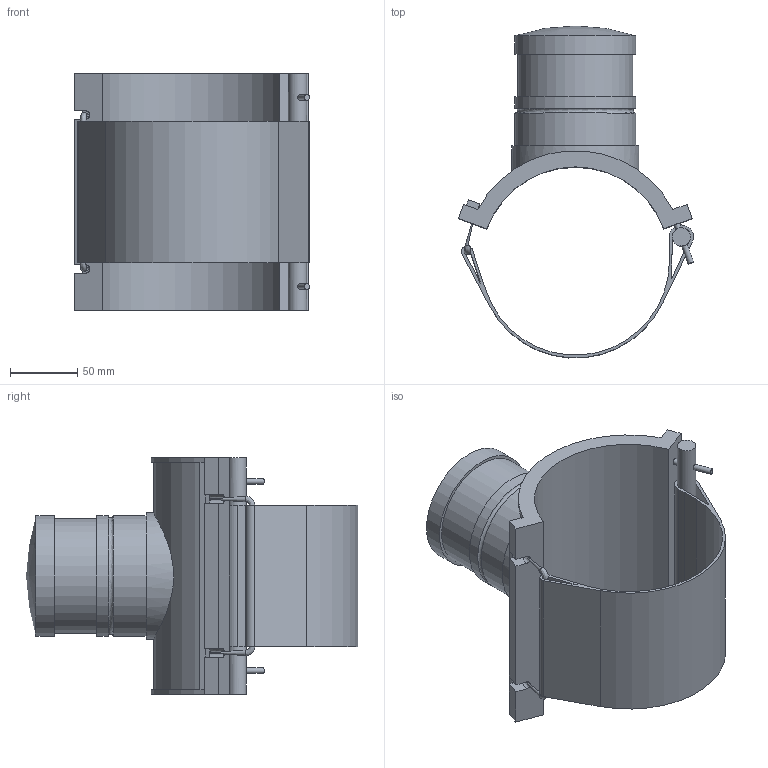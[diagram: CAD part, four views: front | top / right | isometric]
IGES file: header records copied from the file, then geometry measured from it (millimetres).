
Global section: file name: 496804140025.ipt; native system: Autodesk Inventor 2015; preprocessor: unknown; author: KIM; date: 20171106.094408; units: millimetre
Bounding box: 175.02 x 246.94 x 176 mm (x, y, z)
Volume: 1089486 mm3; surface area: 205892.7 mm2
Topology: 2 solids, 2 shells, 74 faces, 191 edges, 124 vertices
Faces by surface type: plane 43, cylinder 21, revolution 9, sphere 1
Full cylindrical faces by diameter (mm): 4.2 x6, 13.569 x1, 85.5 x1, 90 x3, 94.5 x1
